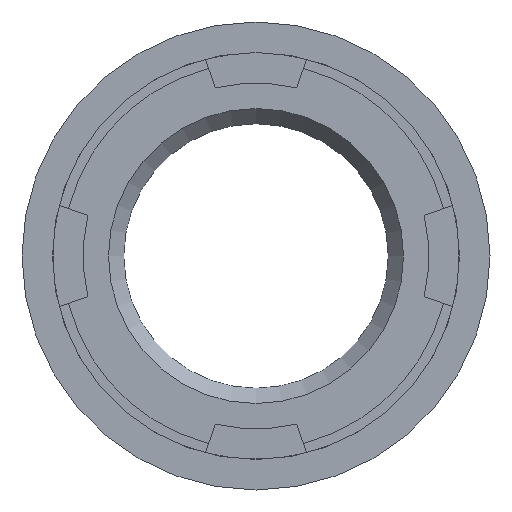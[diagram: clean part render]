
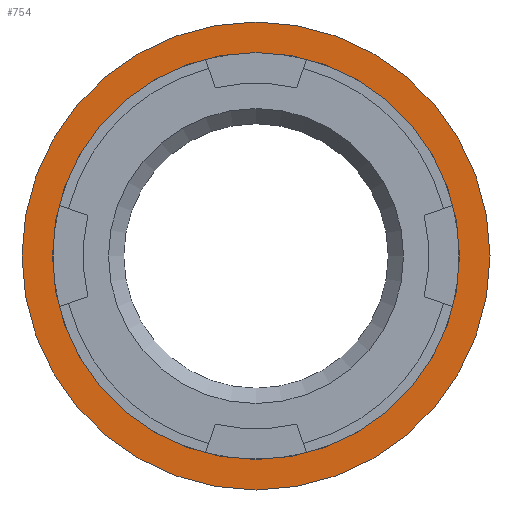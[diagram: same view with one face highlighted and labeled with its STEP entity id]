
A CAD part, left-side view. The second image highlights one B-rep face of the part: STEP entity #754.
In plain terms, the highlighted planar face has unit normal (-1, 0, 0).
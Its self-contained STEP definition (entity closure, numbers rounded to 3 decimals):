
#24=FACE_BOUND('',#176,.T.);
#42=CIRCLE('',#810,20.);
#43=CIRCLE('',#811,20.);
#80=CIRCLE('',#869,23.);
#81=CIRCLE('',#870,23.);
#132=FACE_OUTER_BOUND('',#175,.T.);
#175=EDGE_LOOP('',(#686,#687));
#176=EDGE_LOOP('',(#688,#689));
#335=VERTEX_POINT('',#1252);
#336=VERTEX_POINT('',#1254);
#361=VERTEX_POINT('',#1342);
#362=VERTEX_POINT('',#1343);
#429=EDGE_CURVE('',#336,#335,#42,.T.);
#430=EDGE_CURVE('',#335,#336,#43,.T.);
#471=EDGE_CURVE('',#361,#362,#80,.T.);
#472=EDGE_CURVE('',#362,#361,#81,.T.);
#686=ORIENTED_EDGE('',*,*,#471,.F.);
#687=ORIENTED_EDGE('',*,*,#472,.F.);
#688=ORIENTED_EDGE('',*,*,#429,.T.);
#689=ORIENTED_EDGE('',*,*,#430,.T.);
#716=PLANE('',#868);
#754=ADVANCED_FACE('',(#132,#24),#716,.T.);
#810=AXIS2_PLACEMENT_3D('',#1255,#991,#992);
#811=AXIS2_PLACEMENT_3D('',#1256,#993,#994);
#868=AXIS2_PLACEMENT_3D('',#1341,#1111,#1112);
#869=AXIS2_PLACEMENT_3D('',#1344,#1113,#1114);
#870=AXIS2_PLACEMENT_3D('',#1345,#1115,#1116);
#991=DIRECTION('center_axis',(1.,0.,0.));
#992=DIRECTION('ref_axis',(0.,0.,-1.));
#993=DIRECTION('center_axis',(1.,0.,0.));
#994=DIRECTION('ref_axis',(0.,0.,-1.));
#1111=DIRECTION('center_axis',(-1.,0.,0.));
#1112=DIRECTION('ref_axis',(0.,0.,1.));
#1113=DIRECTION('center_axis',(1.,0.,0.));
#1114=DIRECTION('ref_axis',(0.,0.,-1.));
#1115=DIRECTION('center_axis',(1.,0.,0.));
#1116=DIRECTION('ref_axis',(0.,0.,-1.));
#1252=CARTESIAN_POINT('',(0.,0.,20.));
#1254=CARTESIAN_POINT('',(0.,0.,-20.));
#1255=CARTESIAN_POINT('Origin',(0.,0.,0.));
#1256=CARTESIAN_POINT('Origin',(0.,0.,0.));
#1341=CARTESIAN_POINT('Origin',(0.,0.,-23.));
#1342=CARTESIAN_POINT('',(0.,0.,-23.));
#1343=CARTESIAN_POINT('',(0.,0.,23.));
#1344=CARTESIAN_POINT('Origin',(0.,0.,0.));
#1345=CARTESIAN_POINT('Origin',(0.,0.,0.));
